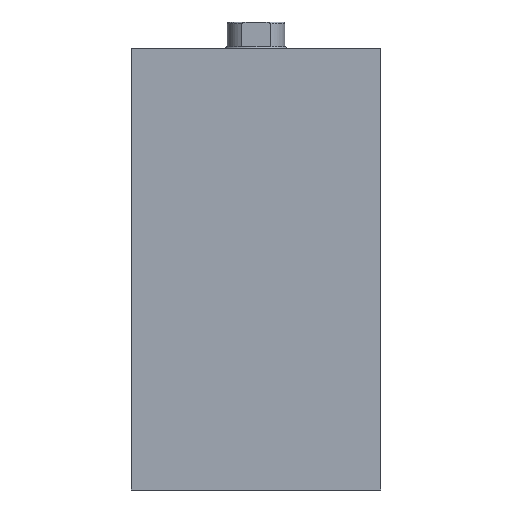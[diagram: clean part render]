
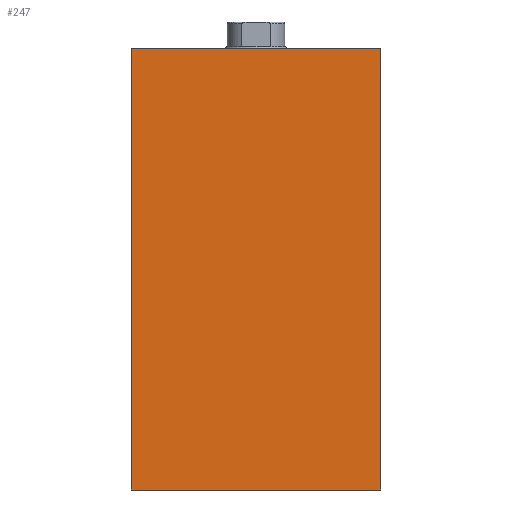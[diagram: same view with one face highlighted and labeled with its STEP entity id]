
A CAD part, left-side view. The second image highlights one B-rep face of the part: STEP entity #247.
In plain terms, the highlighted planar face has unit normal (-1, 0, 0) as drawn and (0, 0, -1) by its records, which use the part's own axes.
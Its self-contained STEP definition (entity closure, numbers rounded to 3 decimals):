
#247 = ADVANCED_FACE( '', ( #328 ), #329, .F. );
#328 = FACE_OUTER_BOUND( '', #524, .T. );
#329 = PLANE( '', #525 );
#524 = EDGE_LOOP( '', ( #739, #740, #741, #742 ) );
#525 = AXIS2_PLACEMENT_3D( '', #743, #744, #745 );
#739 = ORIENTED_EDGE( '', *, *, #1081, .T. );
#740 = ORIENTED_EDGE( '', *, *, #1097, .F. );
#741 = ORIENTED_EDGE( '', *, *, #1092, .F. );
#742 = ORIENTED_EDGE( '', *, *, #1096, .T. );
#743 = CARTESIAN_POINT( '', ( 115., -32.5, -22.5 ) );
#744 = DIRECTION( '', ( 0., 0., 1. ) );
#745 = DIRECTION( '', ( 1., 0., 0. ) );
#1081 = EDGE_CURVE( '', #1175, #1173, #1176, .T. );
#1092 = EDGE_CURVE( '', #1193, #1195, #1196, .T. );
#1096 = EDGE_CURVE( '', #1193, #1175, #1202, .T. );
#1097 = EDGE_CURVE( '', #1195, #1173, #1203, .T. );
#1173 = VERTEX_POINT( '', #1406 );
#1175 = VERTEX_POINT( '', #1409 );
#1176 = LINE( '', #1410, #1411 );
#1193 = VERTEX_POINT( '', #1600 );
#1195 = VERTEX_POINT( '', #1603 );
#1196 = LINE( '', #1604, #1605 );
#1202 = B_SPLINE_CURVE_WITH_KNOTS( '', 1, ( #1678, #1679 ), .UNSPECIFIED., .F., .F., ( 2, 2 ), ( 0., 1. ), .UNSPECIFIED. );
#1203 = B_SPLINE_CURVE_WITH_KNOTS( '', 1, ( #1680, #1681 ), .UNSPECIFIED., .F., .F., ( 2, 2 ), ( 0., 1. ), .UNSPECIFIED. );
#1406 = CARTESIAN_POINT( '', ( 0., 32.5, -22.5 ) );
#1409 = CARTESIAN_POINT( '', ( 0., -32.5, -22.5 ) );
#1410 = CARTESIAN_POINT( '', ( 0., -32.5, -22.5 ) );
#1411 = VECTOR( '', #3655, 1000. );
#1600 = CARTESIAN_POINT( '', ( 115., -32.5, -22.5 ) );
#1603 = CARTESIAN_POINT( '', ( 115., 32.5, -22.5 ) );
#1604 = CARTESIAN_POINT( '', ( 115., -32.5, -22.5 ) );
#1605 = VECTOR( '', #3659, 1000. );
#1678 = CARTESIAN_POINT( '', ( 115., -32.5, -22.5 ) );
#1679 = CARTESIAN_POINT( '', ( 0., -32.5, -22.5 ) );
#1680 = CARTESIAN_POINT( '', ( 115., 32.5, -22.5 ) );
#1681 = CARTESIAN_POINT( '', ( 0., 32.5, -22.5 ) );
#3655 = DIRECTION( '', ( 0., 1., 0. ) );
#3659 = DIRECTION( '', ( 0., 1., 0. ) );
